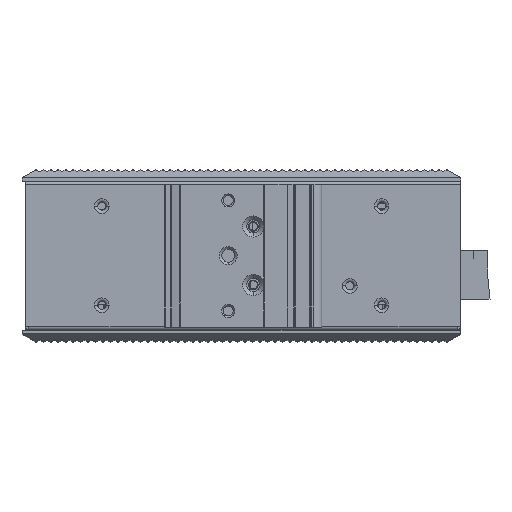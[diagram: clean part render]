
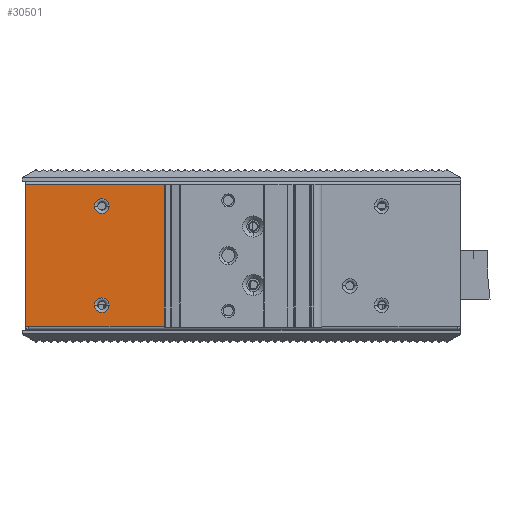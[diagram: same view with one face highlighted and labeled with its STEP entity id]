
A CAD part, top view. The second image highlights one B-rep face of the part: STEP entity #30501.
In plain terms, the highlighted planar face has unit normal (0, 0, 1).
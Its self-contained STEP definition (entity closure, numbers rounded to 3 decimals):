
#2798=DIRECTION('',(-1.,0.,0.));
#2799=VECTOR('',#2798,1.);
#2800=CARTESIAN_POINT('',(-66.34,0.,46.3));
#2801=LINE('',#2800,#2799);
#2850=CARTESIAN_POINT('',(-43.78,6.65,46.3));
#2851=DIRECTION('',(0.,0.,-1.));
#2852=DIRECTION('',(-1.,0.,0.));
#2853=AXIS2_PLACEMENT_3D('',#2850,#2851,#2852);
#2855=CARTESIAN_POINT('',(-43.78,6.65,46.3));
#2856=DIRECTION('',(0.,0.,-1.));
#2857=DIRECTION('',(1.,0.,0.));
#2858=AXIS2_PLACEMENT_3D('',#2855,#2856,#2857);
#2860=CARTESIAN_POINT('',(-43.78,37.15,46.3));
#2861=DIRECTION('',(0.,0.,-1.));
#2862=DIRECTION('',(-1.,0.,0.));
#2863=AXIS2_PLACEMENT_3D('',#2860,#2861,#2862);
#2865=CARTESIAN_POINT('',(-43.78,37.15,46.3));
#2866=DIRECTION('',(0.,0.,-1.));
#2867=DIRECTION('',(1.,0.,0.));
#2868=AXIS2_PLACEMENT_3D('',#2865,#2866,#2867);
#2890=DIRECTION('',(0.,1.,0.));
#2891=VECTOR('',#2890,43.8);
#2892=CARTESIAN_POINT('',(-22.67,0.,46.3));
#2893=LINE('',#2892,#2891);
#2894=DIRECTION('',(0.,-1.,0.));
#2895=VECTOR('',#2894,43.8);
#2896=CARTESIAN_POINT('',(-67.34,43.8,46.3));
#2897=LINE('',#2896,#2895);
#3334=CARTESIAN_POINT('',(-41.53,6.65,46.3));
#3335=CARTESIAN_POINT('',(-41.53,6.654,46.3));
#3336=CARTESIAN_POINT('',(-41.53,6.663,46.3));
#3337=CARTESIAN_POINT('',(-41.53,6.676,46.3));
#3338=CARTESIAN_POINT('',(-41.53,6.684,46.3));
#3339=CARTESIAN_POINT('',(-41.53,6.688,46.3));
#3356=CARTESIAN_POINT('',(-46.03,6.65,46.3));
#3357=CARTESIAN_POINT('',(-46.03,6.646,46.3));
#3358=CARTESIAN_POINT('',(-46.03,6.637,46.3));
#3359=CARTESIAN_POINT('',(-46.03,6.624,46.3));
#3360=CARTESIAN_POINT('',(-46.03,6.616,46.3));
#3361=CARTESIAN_POINT('',(-46.03,6.612,46.3));
#3422=CARTESIAN_POINT('',(-41.53,37.15,46.3));
#3423=CARTESIAN_POINT('',(-41.53,37.154,46.3));
#3424=CARTESIAN_POINT('',(-41.53,37.163,46.3));
#3425=CARTESIAN_POINT('',(-41.53,37.176,46.3));
#3426=CARTESIAN_POINT('',(-41.53,37.184,46.3));
#3427=CARTESIAN_POINT('',(-41.53,37.188,46.3));
#3444=CARTESIAN_POINT('',(-46.03,37.15,46.3));
#3445=CARTESIAN_POINT('',(-46.03,37.146,46.3));
#3446=CARTESIAN_POINT('',(-46.03,37.137,46.3));
#3447=CARTESIAN_POINT('',(-46.03,37.124,46.3));
#3448=CARTESIAN_POINT('',(-46.03,37.116,46.3));
#3449=CARTESIAN_POINT('',(-46.03,37.112,46.3));
#4242=DIRECTION('',(-1.,0.,0.));
#4243=VECTOR('',#4242,43.67);
#4244=CARTESIAN_POINT('',(-22.67,0.,46.3));
#4245=LINE('',#4244,#4243);
#20004=DIRECTION('',(1.,0.,0.));
#20005=VECTOR('',#20004,44.67);
#20006=CARTESIAN_POINT('',(-67.34,43.8,46.3));
#20007=LINE('',#20006,#20005);
#22440=CARTESIAN_POINT('',(-66.34,0.,46.3));
#22441=VERTEX_POINT('',#22440);
#22442=CARTESIAN_POINT('',(-67.34,0.,46.3));
#22443=VERTEX_POINT('',#22442);
#22558=CARTESIAN_POINT('',(-67.34,43.8,46.3));
#22559=VERTEX_POINT('',#22558);
#22985=VERTEX_POINT('',#3334);
#22986=VERTEX_POINT('',#3339);
#22987=CARTESIAN_POINT('',(-46.03,6.651,46.3));
#22988=VERTEX_POINT('',#22987);
#23032=VERTEX_POINT('',#3422);
#23033=VERTEX_POINT('',#3427);
#23034=CARTESIAN_POINT('',(-46.03,37.151,46.3));
#23035=VERTEX_POINT('',#23034);
#23036=VERTEX_POINT('',#3361);
#23083=VERTEX_POINT('',#3449);
#28047=CARTESIAN_POINT('',(-22.67,0.,46.3));
#28049=VERTEX_POINT('',#28047);
#28054=CARTESIAN_POINT('',(-22.67,43.8,46.3));
#28055=VERTEX_POINT('',#28054);
#30466=CARTESIAN_POINT('',(-66.34,0.,46.3));
#30467=DIRECTION('',(0.,0.,-1.));
#30468=DIRECTION('',(-1.,0.,0.));
#30469=AXIS2_PLACEMENT_3D('',#30466,#30467,#30468);
#30470=PLANE('',#30469);
#30472=ORIENTED_EDGE('',*,*,#30471,.F.);
#30474=ORIENTED_EDGE('',*,*,#30473,.T.);
#30475=ORIENTED_EDGE('',*,*,#30425,.T.);
#30476=ORIENTED_EDGE('',*,*,#30340,.F.);
#30478=ORIENTED_EDGE('',*,*,#30477,.T.);
#30479=EDGE_LOOP('',(#30472,#30474,#30475,#30476,#30478));
#30480=FACE_OUTER_BOUND('',#30479,.F.);
#30482=ORIENTED_EDGE('',*,*,#30481,.F.);
#30484=ORIENTED_EDGE('',*,*,#30483,.T.);
#30486=ORIENTED_EDGE('',*,*,#30485,.F.);
#30488=ORIENTED_EDGE('',*,*,#30487,.T.);
#30489=EDGE_LOOP('',(#30482,#30484,#30486,#30488));
#30490=FACE_BOUND('',#30489,.F.);
#30492=ORIENTED_EDGE('',*,*,#30491,.F.);
#30494=ORIENTED_EDGE('',*,*,#30493,.T.);
#30496=ORIENTED_EDGE('',*,*,#30495,.F.);
#30498=ORIENTED_EDGE('',*,*,#30497,.T.);
#30499=EDGE_LOOP('',(#30492,#30494,#30496,#30498));
#30500=FACE_BOUND('',#30499,.F.);
#30501=ADVANCED_FACE('',(#30480,#30490,#30500),#30470,.F.);
#2854=CIRCLE('',#2853,2.25);
#2859=CIRCLE('',#2858,2.25);
#2864=CIRCLE('',#2863,2.25);
#2869=CIRCLE('',#2868,2.25);
#3340=B_SPLINE_CURVE_WITH_KNOTS('',3,(#3334,#3335,#3336,#3337,#3338,#3339),
.UNSPECIFIED.,.F.,.F.,(4,1,1,4),(0.,0.333,0.667,1.),
.UNSPECIFIED.);
#3362=B_SPLINE_CURVE_WITH_KNOTS('',3,(#3356,#3357,#3358,#3359,#3360,#3361),
.UNSPECIFIED.,.F.,.F.,(4,1,1,4),(0.,0.333,0.667,1.),
.UNSPECIFIED.);
#3428=B_SPLINE_CURVE_WITH_KNOTS('',3,(#3422,#3423,#3424,#3425,#3426,#3427),
.UNSPECIFIED.,.F.,.F.,(4,1,1,4),(0.,0.333,0.667,1.),
.UNSPECIFIED.);
#3450=B_SPLINE_CURVE_WITH_KNOTS('',3,(#3444,#3445,#3446,#3447,#3448,#3449),
.UNSPECIFIED.,.F.,.F.,(4,1,1,4),(0.,0.333,0.667,1.),
.UNSPECIFIED.);
#30340=EDGE_CURVE('',#22559,#22443,#2897,.T.);
#30425=EDGE_CURVE('',#22441,#22443,#2801,.T.);
#30471=EDGE_CURVE('',#28049,#28055,#2893,.T.);
#30473=EDGE_CURVE('',#28049,#22441,#4245,.T.);
#30477=EDGE_CURVE('',#22559,#28055,#20007,.T.);
#30481=EDGE_CURVE('',#22988,#22986,#2854,.T.);
#30483=EDGE_CURVE('',#22988,#23036,#3362,.T.);
#30485=EDGE_CURVE('',#22985,#23036,#2859,.T.);
#30487=EDGE_CURVE('',#22985,#22986,#3340,.T.);
#30491=EDGE_CURVE('',#23035,#23033,#2864,.T.);
#30493=EDGE_CURVE('',#23035,#23083,#3450,.T.);
#30495=EDGE_CURVE('',#23032,#23083,#2869,.T.);
#30497=EDGE_CURVE('',#23032,#23033,#3428,.T.);
